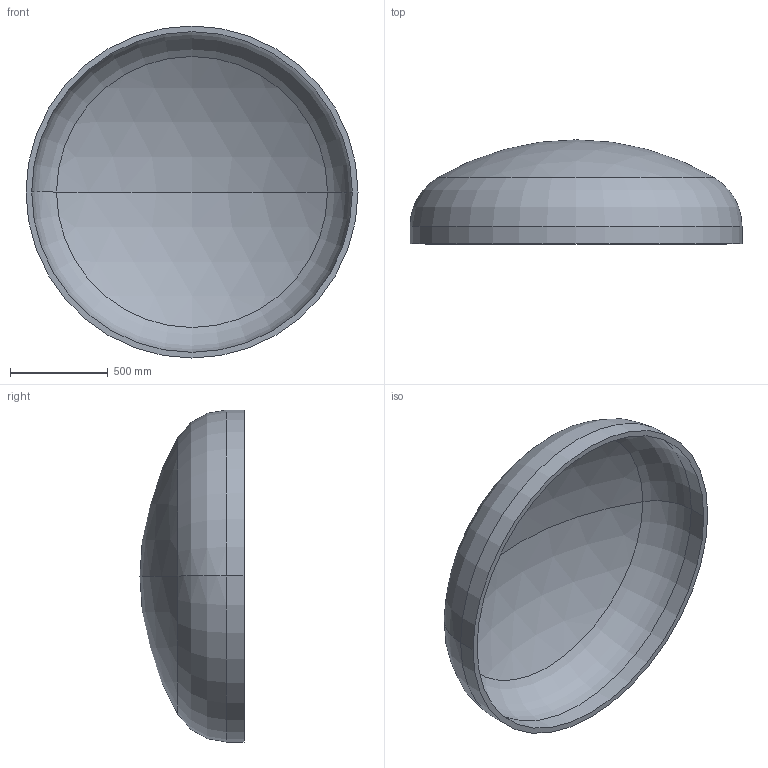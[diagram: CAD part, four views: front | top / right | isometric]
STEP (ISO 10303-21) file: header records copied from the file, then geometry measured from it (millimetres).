
FILE_DESCRIPTION (( 'STEP AP203' ), '1' );
FILE_NAME ('DIN 28013 Korbbogenform_-_Boden DIN 28013 - 1700 x 90 - I - s=29.step', '2016-07-01T11:44:05', ( '' ), ( '' ), 'SwSTEP 2.0', 'SolidWorks 2013', '' );
FILE_SCHEMA (( 'CONFIG_CONTROL_DESIGN' ));
Length unit declared in the file: millimetre
Products named in the file (1): DIN 28013 Korbbogenform_-_Boden DIN 28013 - 1700 x 90 - I - s=29
Bounding box: 1700 x 532.81 x 1700 mm (x, y, z)
Volume: 102717346.8 mm3; surface area: 7237952.4 mm2
Topology: 1 solids, 1 shells, 13 faces, 24 edges, 14 vertices
Faces by surface type: torus 4, cylinder 4, sphere 4, plane 1
Entity records: 407 total; most frequent: DIRECTION 72, CARTESIAN_POINT 52, ORIENTED_EDGE 48, AXIS2_PLACEMENT_3D 34, EDGE_CURVE 24, CIRCLE 20, VERTEX_POINT 14, EDGE_LOOP 14
